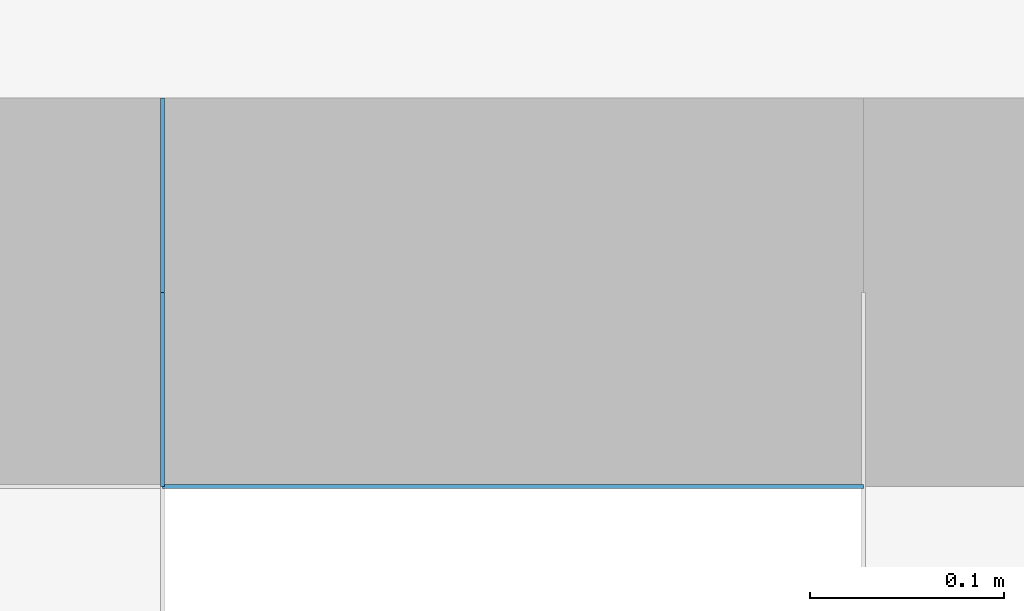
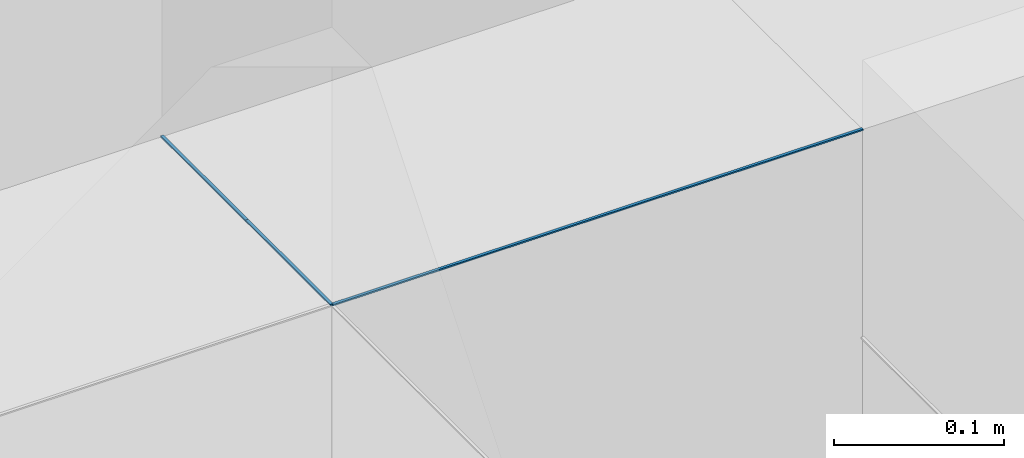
# One storey, part 5 of 17: 3 beams.
"""IFC2X3 building model written with IfcOpenShell, lengths in metres."""

from ifc_helpers import new_model, si_unit, direction, frame, origin_with_axes, place, context, subcontext, project, spatial, polyline, outline, extrude, material, type_object, element, save


model = new_model("IFC2X3")

# Units and contexts
model_context = context("Model", 3, precision=0.0001, world=origin_with_axes(), true_north=direction((0.0, 1.0)))
plan_context = context("Plan", 2, precision=0.0001, world=origin_with_axes(), true_north=direction((0.0, 1.0)))
body_context = subcontext(model_context, "Body", "Model", "MODEL_VIEW")
ifc_project = project(units=[si_unit("MASSUNIT", "GRAM", prefix="KILO"), si_unit("AREAUNIT", "SQUARE_METRE"), si_unit("LENGTHUNIT", "METRE"), si_unit("VOLUMEUNIT", "CUBIC_METRE")], contexts=[plan_context, model_context])

# Site, building, storey
site_placement = place(None, origin_with_axes())
site = spatial("IfcSite", under=ifc_project, at=site_placement, Name="$", CompositionType="ELEMENT")
building_placement = place(site_placement, origin_with_axes())
building = spatial("IfcBuilding", under=site, at=building_placement, Name="Classeur ENS Ensemble", CompositionType="ELEMENT")
storey_placement = place(building_placement, frame((-20.30778888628, -1.812671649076, 0.0), z_axis=(0.0, 0.0, 1.0), x_axis=(1.0, 0.0, 0.0)))
storey = spatial("IfcBuildingStorey", under=building, at=storey_placement, Name="001 RdC", CompositionType="ELEMENT", Elevation=0.0)

# Beams
ifc_material = material(Name="Default material")
beam_type = type_object("IfcBeamType", PredefinedType="BEAM")
beam_1_placement = place(storey_placement, frame((30.5532953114, -11.56732835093, 3.049999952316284), z_axis=(0.0, 0.0, 1.0), x_axis=(0.0, 1.0, 0.0)))
element("IfcBeam", 1, at=beam_1_placement, inside=storey, type_object=beam_type, material=ifc_material, Name="poutre fictive 305", context=body_context, shape_type="SweptSolid", held_by="IfcProductRepresentation", body=[
    extrude(outline(polyline([(0.0, 0.0009999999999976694), (0.0, 0.0009999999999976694), (0.0, 0.0009999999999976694), (0.1000000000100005, 0.0009999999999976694), (0.1000000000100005, 0.0009999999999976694), (0.1000000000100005, 0.0009999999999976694), (0.1000000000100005, -0.001000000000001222), (0.1000000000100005, -0.001000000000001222), (0.1000000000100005, -0.001000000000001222), (0.0, -0.001000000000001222), (0.0, -0.001000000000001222), (0.0, -0.001000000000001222), (0.0, 0.0009999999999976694)])), origin_with_axes(), (0.0, 0.0, 1.0), 0.001),
])
beam_2_placement = place(storey_placement, frame((30.5532953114, -11.66732835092, 3.049999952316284), z_axis=(0.0, 0.0, 1.0), x_axis=(0.0, 1.0, 0.0)))
element("IfcBeam", 2, at=beam_2_placement, inside=storey, type_object=beam_type, material=ifc_material, Name="poutre fictive 305", context=body_context, shape_type="SweptSolid", held_by="IfcProductRepresentation", body=[
    extrude(outline(polyline([(0.0, 0.0009999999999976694), (0.0, 0.0009999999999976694), (0.0, 0.0009999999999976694), (0.09999999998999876, 0.0009999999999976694), (0.09999999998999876, 0.0009999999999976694), (0.09999999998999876, 0.0009999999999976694), (0.09999999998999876, -0.001000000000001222), (0.09999999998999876, -0.001000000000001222), (0.09999999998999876, -0.001000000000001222), (0.0, -0.001000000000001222), (0.0, -0.001000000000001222), (0.0, -0.001000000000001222), (0.0, 0.0009999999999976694)])), origin_with_axes(), (0.0, 0.0, 1.0), 0.001),
])
beam_3_placement = place(storey_placement, frame((30.5532953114, -11.66732835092, 3.049999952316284), z_axis=(0.0, 0.0, 1.0), x_axis=(1.0, 0.0, 0.0)))
element("IfcBeam", 3, at=beam_3_placement, inside=storey, type_object=beam_type, material=ifc_material, Name="poutre fictive 305", context=body_context, shape_type="SweptSolid", held_by="IfcProductRepresentation", body=[
    extrude(outline(polyline([(0.0, 0.0009999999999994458), (0.0, 0.0009999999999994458), (0.0, 0.0009999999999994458), (0.3608634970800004, 0.0009999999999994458), (0.3608634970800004, 0.0009999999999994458), (0.3608634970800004, 0.0009999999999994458), (0.3608634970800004, -0.001000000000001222), (0.3608634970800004, -0.001000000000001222), (0.3608634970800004, -0.001000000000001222), (0.0, -0.001000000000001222), (0.0, -0.001000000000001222), (0.0, -0.001000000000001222), (0.0, 0.0009999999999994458)])), origin_with_axes(), (0.0, 0.0, 1.0), 0.001),
])

save(model, "model.ifc")
